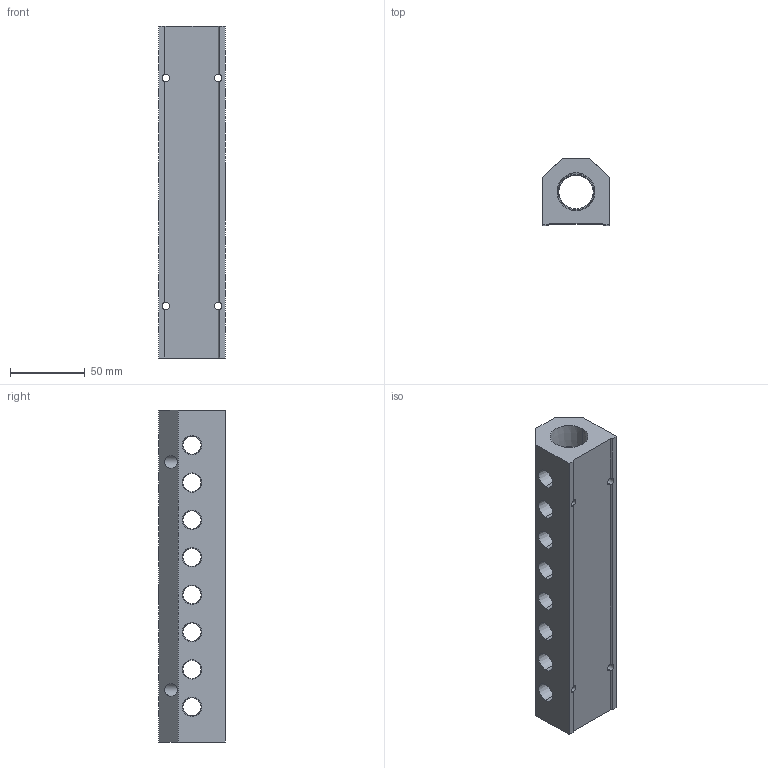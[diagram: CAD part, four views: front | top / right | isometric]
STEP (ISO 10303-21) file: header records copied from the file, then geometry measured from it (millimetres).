
FILE_DESCRIPTION (( 'STEP AP214' ), '1' );
FILE_NAME ('ALM8ACE-N4N12-222R.step', '2022-02-06T14:06:18', ( '' ), ( '' ), 'SwSTEP 2.0', 'SolidWorks 2020', '' );
FILE_SCHEMA (( 'AUTOMOTIVE_DESIGN' ));
Length unit declared in the file: millimetre
Products named in the file (1): ALM8ACE-N4N12-222R
Bounding box: 44.5 x 44.5 x 222 mm (x, y, z)
Volume: 262831.2 mm3; surface area: 62326.3 mm2
Topology: 1 solids, 1 shells, 359 faces, 989 edges, 646 vertices
Faces by surface type: plane 220, bspline 59, cone 58, cylinder 22
Entity records: 20525 total; most frequent: CARTESIAN_POINT 8434, ORIENTED_EDGE 1978, DIRECTION 1481, EDGE_CURVE 989, VECTOR 687, LINE 687, VERTEX_POINT 646, EDGE_LOOP 431
